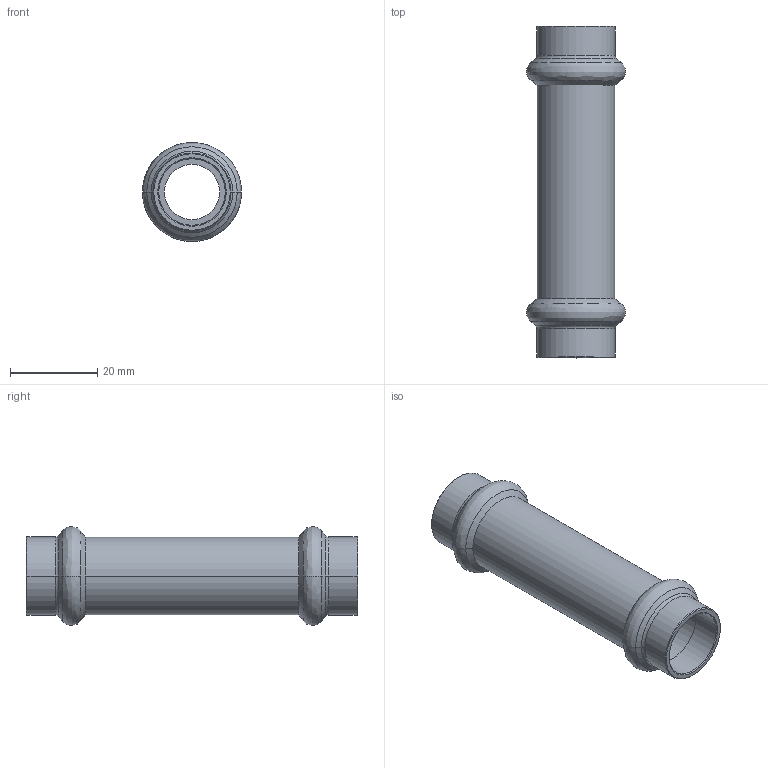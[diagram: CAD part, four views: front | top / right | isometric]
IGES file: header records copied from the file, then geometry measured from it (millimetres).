
Start section: Elysium IGES Interface
Global section: file name: C:\3d modellen sudo\C-Pr VP\SP8275V\8275VW15.igs; native system: CoCreate Modeling 17.00A  17-Jun-2010; preprocessor: CoCreate IGES_3D V2.2; author: Unknown; organization: Unknown; date: 20130129.124218; units: millimetre
Bounding box: 22.68 x 76 x 22.67 mm (x, y, z)
Volume: 6562.7 mm3; surface area: 8600.8 mm2
Topology: 1 solids, 1 shells, 58 faces, 116 edges, 64 vertices
Faces by surface type: bspline 58
